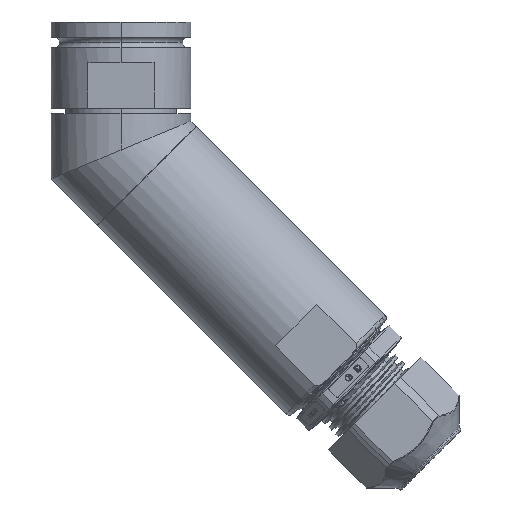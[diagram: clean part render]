
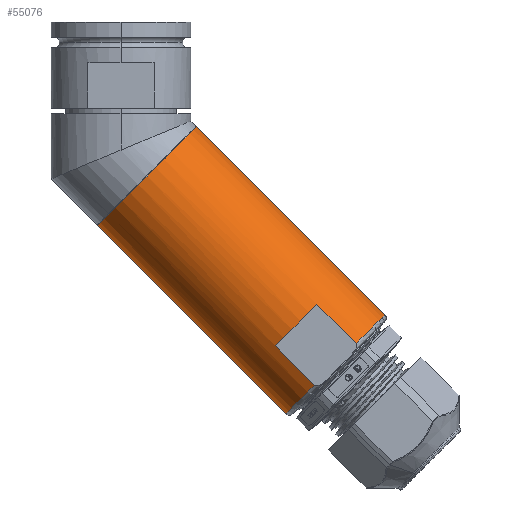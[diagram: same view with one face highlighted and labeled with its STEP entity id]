
A CAD part, left-side view. The second image highlights one B-rep face of the part: STEP entity #55076.
In plain terms, the highlighted cylindrical face has radius 14.77 mm (diameter 29.54 mm), a partial arc.
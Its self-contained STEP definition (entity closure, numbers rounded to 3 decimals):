
#645 = DIRECTION ( 'NONE',  ( 0., -0.707, -0.707 ) ) ;
#687 = FACE_OUTER_BOUND ( 'NONE', #4460, .T. ) ;
#908 = DIRECTION ( 'NONE',  ( 0., -0.707, 0.707 ) ) ;
#2311 = VERTEX_POINT ( 'NONE', #42917 ) ;
#2320 = AXIS2_PLACEMENT_3D ( 'NONE', #32149, #3965, #9203 ) ;
#2522 = CARTESIAN_POINT ( 'NONE',  ( -13.399, -32.565, -62.714 ) ) ;
#3965 = DIRECTION ( 'NONE',  ( 0., 0.707, 0.707 ) ) ;
#4460 = EDGE_LOOP ( 'NONE', ( #32217, #59879, #31962, #36546, #21788, #58242, #50781, #33887 ) ) ;
#4943 = DIRECTION ( 'NONE',  ( 0., 0.707, 0.707 ) ) ;
#5318 = DIRECTION ( 'NONE',  ( 0., -0.707, 0.707 ) ) ;
#5546 = CARTESIAN_POINT ( 'NONE',  ( 0., -45.222, -66.58 ) ) ;
#5719 = VERTEX_POINT ( 'NONE', #40142 ) ;
#6590 = EDGE_CURVE ( 'NONE', #19705, #33243, #23526, .T. ) ;
#7100 = LINE ( 'NONE', #46064, #43447 ) ;
#9203 = DIRECTION ( 'NONE',  ( 0., -0.707, 0.707 ) ) ;
#12173 = CIRCLE ( 'NONE', #60614, 14.77 ) ;
#12408 = EDGE_CURVE ( 'NONE', #5719, #16128, #31480, .T. ) ;
#14046 = AXIS2_PLACEMENT_3D ( 'NONE', #30483, #49343, #16255 ) ;
#14249 = EDGE_CURVE ( 'NONE', #19705, #51418, #12173, .T. ) ;
#14557 = DIRECTION ( 'NONE',  ( 0., 0.707, 0.707 ) ) ;
#14650 = EDGE_CURVE ( 'NONE', #16128, #51418, #14778, .T. ) ;
#14778 = LINE ( 'NONE', #24052, #35919 ) ;
#15840 = CARTESIAN_POINT ( 'NONE',  ( 0., -5.493, -26.851 ) ) ;
#16128 = VERTEX_POINT ( 'NONE', #2522 ) ;
#16255 = DIRECTION ( 'NONE',  ( 0., -0.707, 0.707 ) ) ;
#18814 = DIRECTION ( 'NONE',  ( 0., 0.707, 0.707 ) ) ;
#19248 = DIRECTION ( 'NONE',  ( 0., 0.707, 0.707 ) ) ;
#19705 = VERTEX_POINT ( 'NONE', #41319 ) ;
#21788 = ORIENTED_EDGE ( 'NONE', *, *, #56969, .T. ) ;
#22271 = CARTESIAN_POINT ( 'NONE',  ( 0., -55.666, -56.136 ) ) ;
#23526 = LINE ( 'NONE', #47351, #58647 ) ;
#24052 = CARTESIAN_POINT ( 'NONE',  ( -13.399, -32.565, -62.714 ) ) ;
#28865 = CIRCLE ( 'NONE', #14046, 14.77 ) ;
#28981 = CARTESIAN_POINT ( 'NONE',  ( 0., -15.938, -16.407 ) ) ;
#30483 = CARTESIAN_POINT ( 'NONE',  ( 0., -45.222, -66.58 ) ) ;
#31009 = CIRCLE ( 'NONE', #2320, 14.77 ) ;
#31425 = VERTEX_POINT ( 'NONE', #28981 ) ;
#31480 = CIRCLE ( 'NONE', #42353, 14.77 ) ;
#31962 = ORIENTED_EDGE ( 'NONE', *, *, #14650, .F. ) ;
#32149 = CARTESIAN_POINT ( 'NONE',  ( 0., -5.493, -26.851 ) ) ;
#32217 = ORIENTED_EDGE ( 'NONE', *, *, #6590, .F. ) ;
#33243 = VERTEX_POINT ( 'NONE', #58532 ) ;
#33887 = ORIENTED_EDGE ( 'NONE', *, *, #55315, .F. ) ;
#34114 = CYLINDRICAL_SURFACE ( 'NONE', #37073, 14.77 ) ;
#34502 = EDGE_CURVE ( 'NONE', #52386, #31425, #7100, .T. ) ;
#35919 = VECTOR ( 'NONE', #47273, 1000. ) ;
#36546 = ORIENTED_EDGE ( 'NONE', *, *, #12408, .F. ) ;
#37073 = AXIS2_PLACEMENT_3D ( 'NONE', #15840, #19248, #5318 ) ;
#38419 = CARTESIAN_POINT ( 'NONE',  ( -13.399, -41.356, -53.923 ) ) ;
#40142 = CARTESIAN_POINT ( 'NONE',  ( -13.399, -41.356, -53.923 ) ) ;
#41319 = CARTESIAN_POINT ( 'NONE',  ( 0., -34.778, -77.024 ) ) ;
#42353 = AXIS2_PLACEMENT_3D ( 'NONE', #47534, #51896, #43224 ) ;
#42917 = CARTESIAN_POINT ( 'NONE',  ( -13.399, -49.617, -62.185 ) ) ;
#43224 = DIRECTION ( 'NONE',  ( 0., -0.707, 0.707 ) ) ;
#43447 = VECTOR ( 'NONE', #18814, 1000. ) ;
#44436 = EDGE_CURVE ( 'NONE', #2311, #52386, #28865, .T. ) ;
#46064 = CARTESIAN_POINT ( 'NONE',  ( 0., -15.938, -16.407 ) ) ;
#46859 = VECTOR ( 'NONE', #645, 1000. ) ;
#46946 = CARTESIAN_POINT ( 'NONE',  ( -13.399, -40.827, -70.975 ) ) ;
#47273 = DIRECTION ( 'NONE',  ( 0., -0.707, -0.707 ) ) ;
#47351 = CARTESIAN_POINT ( 'NONE',  ( 0., 4.951, -37.296 ) ) ;
#47534 = CARTESIAN_POINT ( 'NONE',  ( 0., -36.96, -58.318 ) ) ;
#49343 = DIRECTION ( 'NONE',  ( 0., 0.707, 0.707 ) ) ;
#50781 = ORIENTED_EDGE ( 'NONE', *, *, #34502, .T. ) ;
#51418 = VERTEX_POINT ( 'NONE', #46946 ) ;
#51896 = DIRECTION ( 'NONE',  ( 0., -0.707, -0.707 ) ) ;
#52386 = VERTEX_POINT ( 'NONE', #22271 ) ;
#54381 = LINE ( 'NONE', #38419, #46859 ) ;
#55076 = ADVANCED_FACE ( 'NONE', ( #687 ), #34114, .T. ) ;
#55315 = EDGE_CURVE ( 'NONE', #33243, #31425, #31009, .T. ) ;
#56969 = EDGE_CURVE ( 'NONE', #5719, #2311, #54381, .T. ) ;
#58242 = ORIENTED_EDGE ( 'NONE', *, *, #44436, .T. ) ;
#58532 = CARTESIAN_POINT ( 'NONE',  ( 0., 4.951, -37.296 ) ) ;
#58647 = VECTOR ( 'NONE', #4943, 1000. ) ;
#59879 = ORIENTED_EDGE ( 'NONE', *, *, #14249, .T. ) ;
#60614 = AXIS2_PLACEMENT_3D ( 'NONE', #5546, #14557, #908 ) ;
